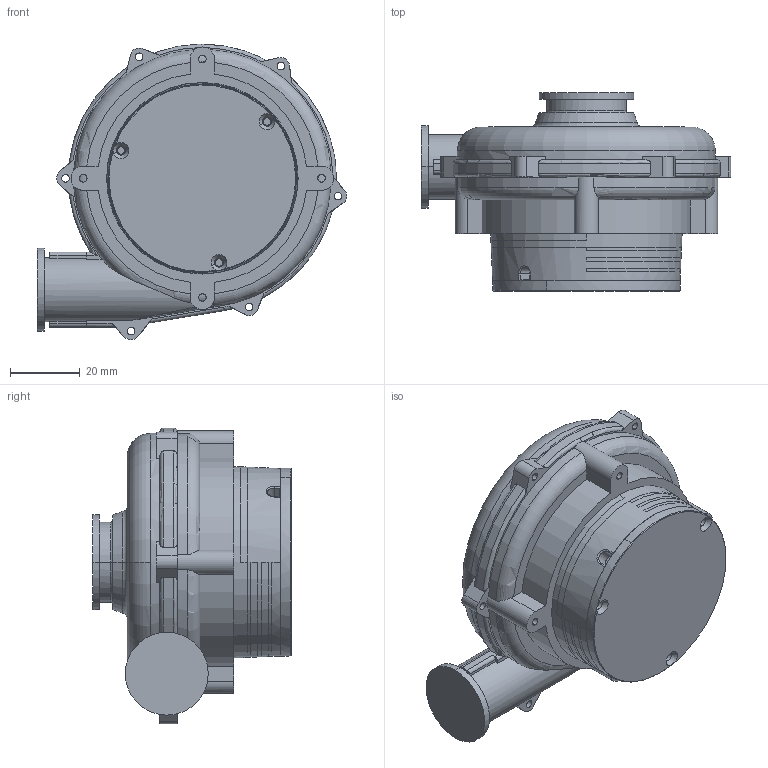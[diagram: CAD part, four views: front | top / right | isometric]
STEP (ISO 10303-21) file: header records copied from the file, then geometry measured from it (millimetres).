
FILE_DESCRIPTION((''),'2;1');
FILE_NAME('PRT0001','2026-07-16T09:21:22',('pc'),(''),'CREO PARAMETRIC BY PTC INC, 2018050','CREO PARAMETRIC BY PTC INC, 2018050','');
FILE_SCHEMA(('CONFIG_CONTROL_DESIGN','GEOMETRIC_VALIDATION_PROPERTIES_MIM'));
Length unit declared in the file: millimetre
Products named in the file (1): PRT0001
Bounding box: 88.86 x 56.9 x 84.88 mm (x, y, z)
Volume: 170480.8 mm3; surface area: 24701.6 mm2
Topology: 1 solids, 6 shells, 263 faces, 721 edges, 490 vertices
Faces by surface type: plane 105, cylinder 103, torus 26, cone 14, bspline 13, extrusion 2
Entity records: 13195 total; most frequent: CARTESIAN_POINT 3101, ORIENTED_EDGE 1442, DIRECTION 1423, PRESENTATION_STYLE_ASSIGNMENT 858, STYLED_ITEM 723, CURVE_STYLE 722, EDGE_CURVE 721, AXIS2_PLACEMENT_3D 559
